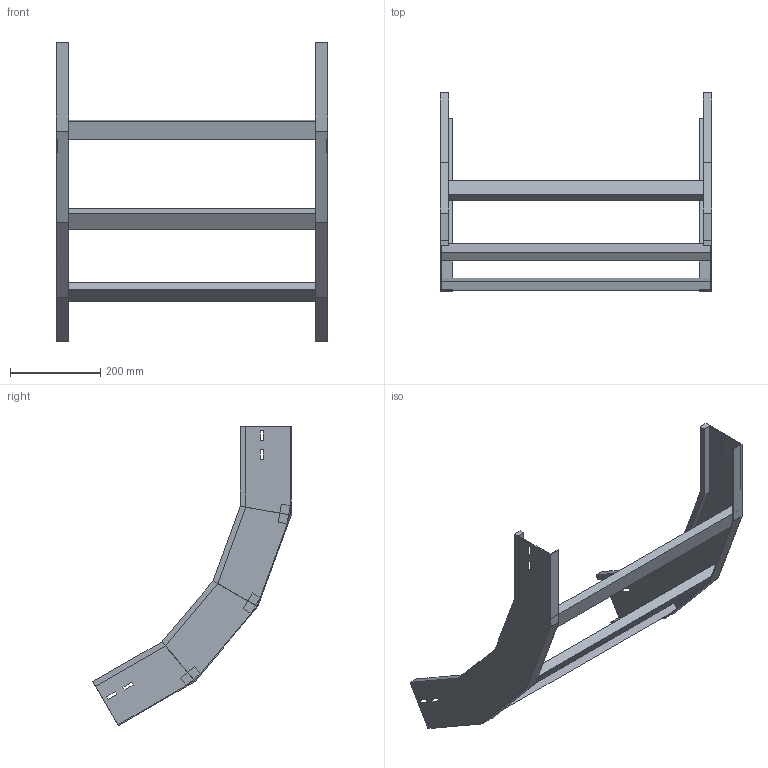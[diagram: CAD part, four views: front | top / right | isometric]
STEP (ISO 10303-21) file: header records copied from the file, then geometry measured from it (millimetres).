
FILE_DESCRIPTION (( 'STEP AP214' ), '1' );
FILE_NAME ('A2X40B5J600XX.step', '2025-03-20T10:14:49', ( '' ), ( '' ), 'SwSTEP 2.0', 'SolidWorks 2023', '' );
FILE_SCHEMA (( 'AUTOMOTIVE_DESIGN' ));
Length unit declared in the file: millimetre
Products named in the file (3): TRAVERSINO_600; A2X40B5J600XX; LONGH.SALITA_60°_H112.5_R500
Assembly tree (5 placements, depth 2):
  A2X40B5J600XX
    LONGH.SALITA_60°_H112.5_R500  x2
    TRAVERSINO_600  x3
Bounding box: 600 x 438.74 x 662.49 mm (x, y, z)
Volume: 2145466.9 mm3; surface area: 699619.8 mm2
Topology: 5 solids, 5 shells, 118 faces, 276 edges, 168 vertices
Faces by surface type: plane 118
Entity records: 1672 total; most frequent: CARTESIAN_POINT 276, ORIENTED_EDGE 264, DIRECTION 260, LINE 132, VECTOR 132, EDGE_CURVE 132, VERTEX_POINT 80, AXIS2_PLACEMENT_3D 64
